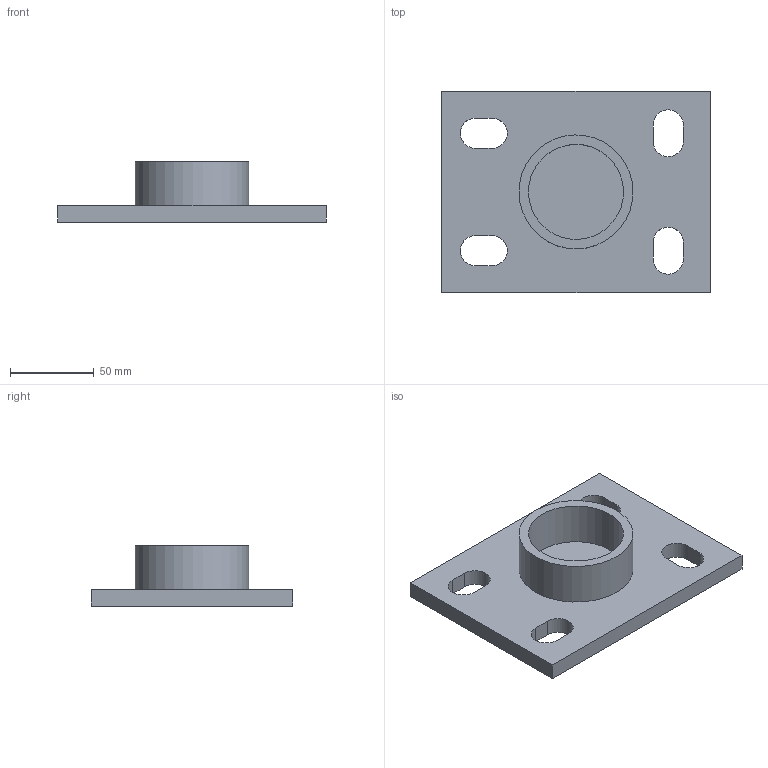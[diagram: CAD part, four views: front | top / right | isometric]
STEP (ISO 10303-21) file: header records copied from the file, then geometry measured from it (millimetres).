
FILE_DESCRIPTION(/* description */ (''),/* implementation_level */ '2;1');
FILE_NAME(/* name */ '362874.stp',/* time_stamp */ '2025-02-20T15:18:19+01:00',/* author */ ('JANAN'),/* organization */ (''),/* preprocessor_version */ 'ST-DEVELOPER v19.2',/* originating_system */ 'Autodesk Inventor 2023',/* authorisation */ '');
FILE_SCHEMA (('AUTOMOTIVE_DESIGN { 1 0 10303 214 3 1 1 }'));
Length unit declared in the file: millimetre
Products named in the file (1): tmp475D.tmp
Bounding box: 160 x 120 x 36 mm (x, y, z)
Volume: 203497.6 mm3; surface area: 53768.3 mm2
Topology: 1 solids, 1 shells, 26 faces, 66 edges, 44 vertices
Faces by surface type: plane 16, cylinder 10
Full cylindrical faces by diameter (mm): 56.656 x1, 68 x1
Entity records: 875 total; most frequent: DIRECTION 140, CARTESIAN_POINT 137, ORIENTED_EDGE 132, EDGE_CURVE 66, AXIS2_PLACEMENT_3D 47, LINE 46, VECTOR 46, VERTEX_POINT 44
